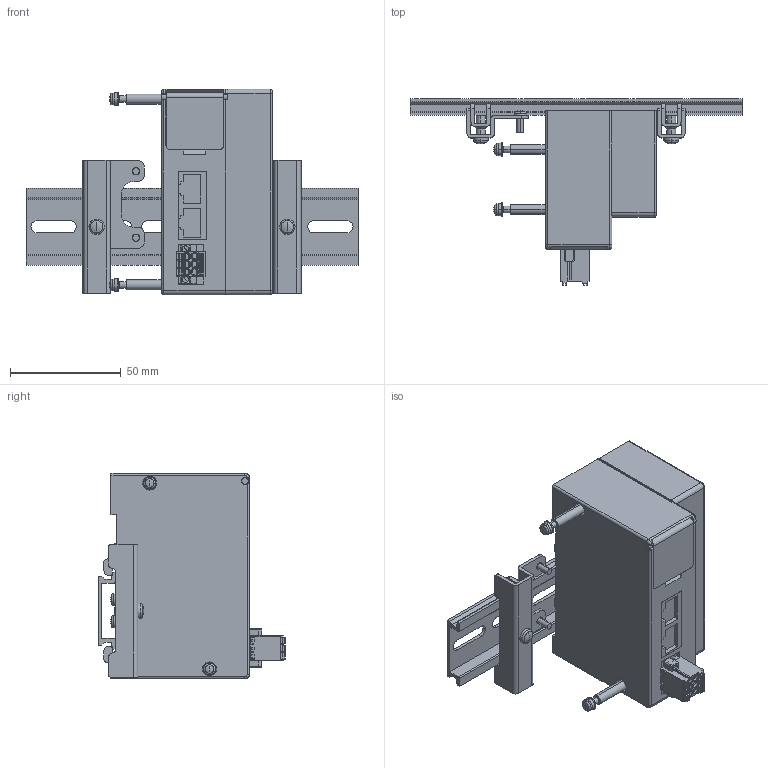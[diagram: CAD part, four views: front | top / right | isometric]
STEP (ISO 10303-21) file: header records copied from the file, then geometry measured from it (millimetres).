
FILE_DESCRIPTION( (''), '2;1');
FILE_NAME ('YS8EM3-1-DR.stp','2022-12-01T14:41:27',(''),(''),'spGate 12.6.6','','');
FILE_SCHEMA (('AUTOMOTIVE_DESIGN'));
Length unit declared in the file: millimetre
Products named in the file (4): Assembly; YS8EM3-1-DR-prt0; YS8EM3-1-DR-prt1; YS8EM3-1-DR-prt2
Assembly tree (4 placements, depth 2):
  Assembly
    YS8EM3-1-DR-prt0
    YS8EM3-1-DR-prt1  x2
    YS8EM3-1-DR-prt2
Bounding box: 150 x 84.4 x 93 mm (x, y, z)
Volume: 275016.3 mm3; surface area: 59933.2 mm2
Topology: 4 solids, 4 shells, 1015 faces, 2667 edges, 1713 vertices
Faces by surface type: plane 593, cylinder 324, bspline 82, sphere 16
Entity records: 46432 total; most frequent: CARTESIAN_POINT 6281, ORIENTED_EDGE 4612, DIRECTION 4370, COLOUR_RGB 3193, PRESENTATION_STYLE_ASSIGNMENT 3193, STYLED_ITEM 3193, EDGE_CURVE 2306, DRAUGHTING_PRE_DEFINED_CURVE_FONT 2306
